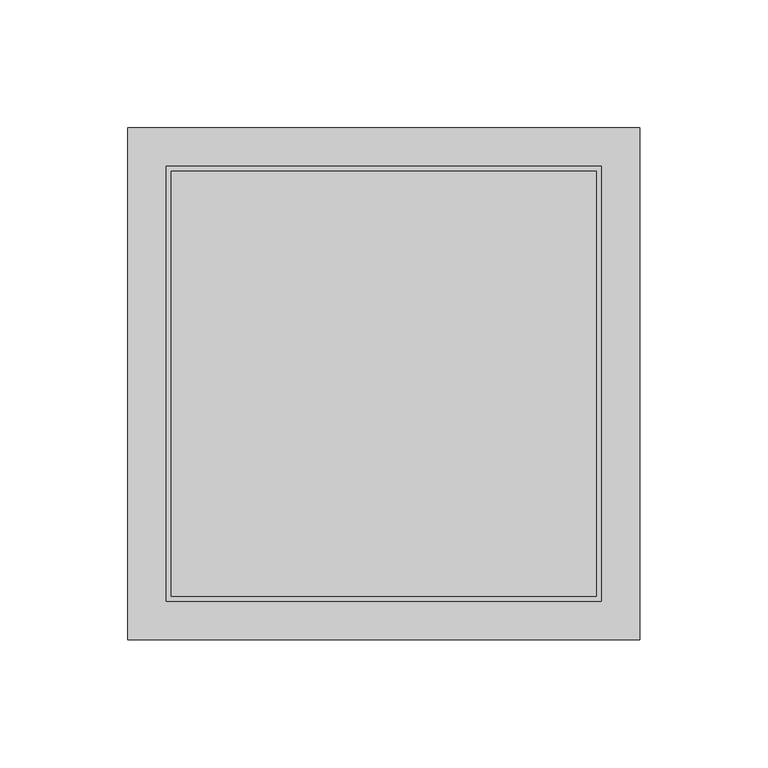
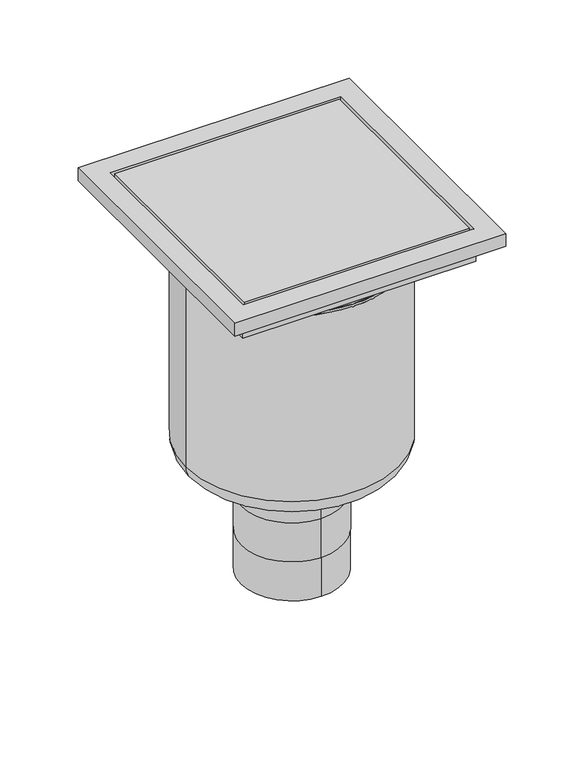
"""IFC4 building model written with IfcOpenShell, lengths in millimetres: sanitary terminal geometry, PF_ST_UN_Siphon telescopics epur hygiene first_ACO : 200 x200 Monolithique hygenic gully 157mm outlet DN75."""

from ifc_helpers import new_model, si_unit, point, frame, origin, origin_2d, place, context, project, spatial, polyline, circle_curve, ellipse_curve, trimmed, segment, composite_curve, outline, extrude, faceted_brep, source, transform, mapped, element, save
from ifc_brep_helpers import plane_surface, cylinder_surface, revolved_surface, advanced_brep


def sanitary_terminal_58999958(model_context):
    return source(origin(), model_context, "Body", "SolidModel", [
        advanced_brep(
        [(0.0, -37.5, -406.0), (0.0, 37.5, -406.0), (0.0, -37.5, -375.6666667), (0.0, 37.5, -375.6666667), (0.0, -37.5, -345.3333333), (0.0, 37.5, -345.3333333), (0.0, 37.5, -315.0), (37.5, 0.0, -315.0), (0.0, -37.5, -315.0), (-37.5, 0.0, -315.0), (78.5, 0.0, -300.0), (-78.5, 0.0, -300.0), (-78.5, 0.0, -155.0), (78.5, 0.0, -155.0), (63.5, 0.0, -315.0), (-63.5, 0.0, -315.0), (-78.5, 0.0, -153.0), (78.5, 0.0, -153.0)],
        [
            (0, 1, circle_curve(frame((0.0, 0.0, -406.0), z_axis=(0.0, 0.0, -1.0), x_axis=(0.0, 1.0, 0.0)), 37.5)),
            (1, 0, circle_curve(frame((0.0, 0.0, -406.0), z_axis=(0.0, 0.0, -1.0), x_axis=(0.0, 1.0, 0.0)), 37.5)),
            (0, 2),
            (2, 3, circle_curve(frame((0.0, 0.0, -375.6666667), z_axis=(0.0, 0.0, -1.0), x_axis=(0.0, 1.0, 0.0)), 37.5)),
            (3, 1),
            (3, 2, circle_curve(frame((0.0, 0.0, -375.6666667), z_axis=(0.0, 0.0, -1.0), x_axis=(0.0, 1.0, 0.0)), 37.5)),
            (4, 2),
            (3, 5),
            (5, 4, circle_curve(frame((0.0, 0.0, -345.3333333), z_axis=(0.0, 0.0, -1.0), x_axis=(1.0, 0.0, 0.0)), 37.5)),
            (4, 5, circle_curve(frame((0.0, 0.0, -345.3333333), z_axis=(0.0, 0.0, -1.0), x_axis=(-1.0, 0.0, 0.0)), 37.5)),
            (5, 6),
            (6, 7, circle_curve(frame((0.0, 0.0, -315.0), z_axis=(0.0, 0.0, -1.0), x_axis=(0.0, 1.0, 0.0)), 37.5)),
            (7, 8, circle_curve(frame((0.0, 0.0, -315.0), z_axis=(0.0, 0.0, -1.0), x_axis=(0.0, 1.0, 0.0)), 37.5)),
            (8, 4),
            (8, 9, circle_curve(frame((0.0, 0.0, -315.0), z_axis=(0.0, 0.0, -1.0), x_axis=(0.0, 1.0, 0.0)), 37.5)),
            (9, 6, circle_curve(frame((0.0, 0.0, -315.0), z_axis=(0.0, 0.0, -1.0), x_axis=(0.0, 1.0, 0.0)), 37.5)),
            (10, 11, circle_curve(frame((0.0, 0.0, -300.0), z_axis=(0.0, 0.0, 1.0), x_axis=(-1.0, 0.0, 0.0)), 78.5)),
            (11, 12),
            (12, 13, circle_curve(frame((0.0, 0.0, -155.0), z_axis=(0.0, 0.0, -1.0), x_axis=(-1.0, 0.0, 0.0)), 78.5)),
            (13, 10),
            (11, 10, circle_curve(frame((0.0, 0.0, -300.0), z_axis=(0.0, 0.0, 1.0), x_axis=(-1.0, 0.0, 0.0)), 78.5)),
            (13, 12, circle_curve(frame((0.0, 0.0, -155.0), z_axis=(0.0, 0.0, -1.0), x_axis=(-1.0, 0.0, 0.0)), 78.5)),
            (10, 14, circle_curve(frame((63.5, 0.0, -300.0), z_axis=(0.0, 1.0, 0.0), x_axis=(-1.0, 0.0, 0.0)), 15.0)),
            (14, 15, circle_curve(frame((0.0, 0.0, -315.0), z_axis=(0.0, 0.0, 1.0), x_axis=(-1.0, 0.0, 0.0)), 63.5)),
            (15, 11, circle_curve(frame((-63.5, 0.0, -300.0), z_axis=(0.0, 1.0, 0.0), x_axis=(1.0, 0.0, 0.0)), 15.0)),
            (15, 14, circle_curve(frame((0.0, 0.0, -315.0), z_axis=(0.0, 0.0, 1.0), x_axis=(-1.0, 0.0, 0.0)), 63.5)),
            (14, 7),
            (9, 15),
            (16, 17, circle_curve(frame((0.0, 0.0, -153.0), z_axis=(0.0, 0.0, 1.0), x_axis=(1.0, 0.0, 0.0)), 78.5)),
            (17, 16, circle_curve(frame((0.0, 0.0, -153.0), z_axis=(0.0, 0.0, 1.0), x_axis=(1.0, 0.0, 0.0)), 78.5)),
            (16, 12),
            (13, 17),
        ],
        [
            plane_surface(frame((0.0, 37.5, -406.0), z_axis=(0.0, 0.0, -1.0), x_axis=(1.0, 0.0, 0.0))),
            cylinder_surface(frame((0.0, 0.0, -375.6666667), z_axis=(0.0, 0.0, -1.0), x_axis=(0.0, 1.0, 0.0)), 37.5),
            cylinder_surface(frame((0.0, 0.0, -345.3333333), z_axis=(0.0, 0.0, -1.0), x_axis=(1.0, 0.0, 0.0)), 37.5),
            cylinder_surface(frame((0.0, 0.0, -345.3333333), z_axis=(0.0, 0.0, -1.0), x_axis=(-1.0, 0.0, 0.0)), 37.5),
            cylinder_surface(frame((0.0, 0.0, -315.0), z_axis=(0.0, 0.0, -1.0), x_axis=(0.0, 1.0, 0.0)), 37.5),
            cylinder_surface(frame((0.0, 0.0, -93.0), z_axis=(0.0, 0.0, -1.0), x_axis=(-1.0, 0.0, 0.0)), 78.5),
            revolved_surface(trimmed(ellipse_curve(frame((-63.5, 0.0, -300.0), z_axis=(0.0, -1.0, 0.0), x_axis=(1.0, 0.0, 0.0)), 15.0, 15.0), [point((-78.5, 0.0, -300.0))], [point((-63.5, 0.0, -315.0))], True, "CARTESIAN"), (0.0, 0.0, -93.0), (0.0, 0.0, -1.0)),
            plane_surface(frame((0.0, 0.0, -315.0), z_axis=(0.0, 0.0, -1.0), x_axis=(-1.0, 0.0, 0.0))),
            plane_surface(frame((78.5, 0.0, -153.0), z_axis=(0.0, 0.0, 1.0), x_axis=(0.0, 1.0, 0.0))),
            cylinder_surface(frame((0.0, 0.0, -155.0), z_axis=(0.0, 0.0, 1.0), x_axis=(1.0, 0.0, 0.0)), 78.5),
        ],
        [
            (0, [[1, 2]]),
            (1, [[-1, 3, 4, 5]]),
            (1, [[-2, -5, 6, -3]]),
            (2, [[7, -6, 8, 9]]),
            (3, [[-7, 10, -8, -4]]),
            (4, [[11, 12, 13, 14, -9]]),
            (4, [[-11, -10, -14, 15, 16]]),
            (5, [[17, 18, 19, 20]]),
            (5, [[-18, 21, -20, 22]]),
            (6, [[-17, 23, 24, 25]]),
            (6, [[-21, -25, 26, -23]]),
            (7, [[-24, 27, -12, -16, 28]]),
            (7, [[-26, -28, -15, -13, -27]]),
            (8, [[29, 30]]),
            (9, [[-29, 31, -22, 32]]),
            (9, [[-30, -32, -19, -31]]),
        ],
    ),
        extrude(outline(composite_curve([segment(trimmed(circle_curve(origin_2d(), 78.5), [point((-78.5, 0.0))], [point((78.5, 0.0))], False, "CARTESIAN"), True, "CONTINUOUS"), segment(trimmed(circle_curve(origin_2d(), 78.5), [point((78.5, 0.0))], [point((-78.5, 0.0))], False, "CARTESIAN"), True, "CONTINUOUS")], self_intersect=False)), frame((0.0, 0.0, -153.0), z_axis=(0.0, 0.0, 1.0), x_axis=(1.0, 0.0, 0.0)), (0.0, 0.0, 1.0), 8.0),
        faceted_brep([(100.0, 100.0, -130.0), (100.0, 100.0, -120.0), (100.0, -100.0, -120.0), (100.0, -100.0, -130.0), (86.0, 86.0, -145.0), (86.0, 86.0, -130.0), (86.0, -86.0, -130.0), (86.0, -86.0, -145.0), (85.0, -85.0, -120.0), (85.0, 85.0, -120.0), (85.0, 85.0, -135.0), (85.0, -85.0, -135.0), (-100.0, -100.0, -120.0), (-100.0, -100.0, -130.0), (-86.0, -86.0, -130.0), (-86.0, -86.0, -145.0), (-85.0, -85.0, -120.0), (-85.0, -85.0, -135.0), (-100.0, 100.0, -120.0), (-100.0, 100.0, -130.0), (-86.0, 86.0, -130.0), (-86.0, 86.0, -145.0), (-85.0, 85.0, -120.0), (-85.0, 85.0, -135.0)], [[[0, 1, 2, 3]], [[4, 5, 6, 7]], [[8, 9, 10, 11]], [[3, 2, 12, 13]], [[7, 6, 14, 15]], [[16, 8, 11, 17]], [[13, 12, 18, 19]], [[15, 14, 20, 21]], [[22, 16, 17, 23]], [[2, 1, 18, 12], [9, 8, 16, 22]], [[1, 0, 19, 18]], [[0, 3, 13, 19], [6, 5, 20, 14]], [[5, 4, 21, 20]], [[4, 7, 15, 21]], [[9, 22, 23, 10]], [[11, 10, 23, 17]]]),
        extrude(outline(polyline([(83.0, 83.0), (83.0, -83.0), (-83.0, -83.0), (-83.0, 83.0), (83.0, 83.0)])), frame((0.0, 0.0, -135.0), z_axis=(0.0, 0.0, 1.0), x_axis=(1.0, 0.0, 0.0)), (0.0, 0.0, 1.0), 15.0),
    ])


if __name__ == "__main__":
    model = new_model("IFC4")
    model_context = context("Model", 3, world=origin())
    ifc_project = project(units=[si_unit("LENGTHUNIT", "METRE", prefix="MILLI")], contexts=[model_context])
    site = spatial("IfcSite", under=ifc_project)
    building = spatial("IfcBuilding", under=site)
    placement = place(None, origin())
    sanitary_terminal_shape = sanitary_terminal_58999958(model_context)
    element("IfcSanitaryTerminal", 1, ObjectType="PF_ST_UN_Siphon telescopics epur hygiene first_ACO : 200 x200 Monolithique hygenic gully 157mm outlet DN75", at=placement, inside=building, context=model_context, shape_type="MappedRepresentation", body=[
        mapped(sanitary_terminal_shape, transform((0.0, 0.0, 0.0), x_axis=(1.0, 0.0, 0.0), y_axis=(0.0, 1.0, 0.0), z_axis=(0.0, 0.0, 1.0))),
    ])
    save(model, "model.ifc")
